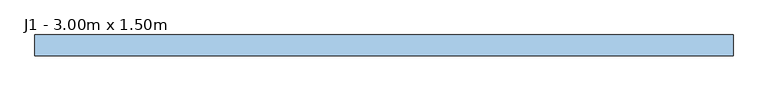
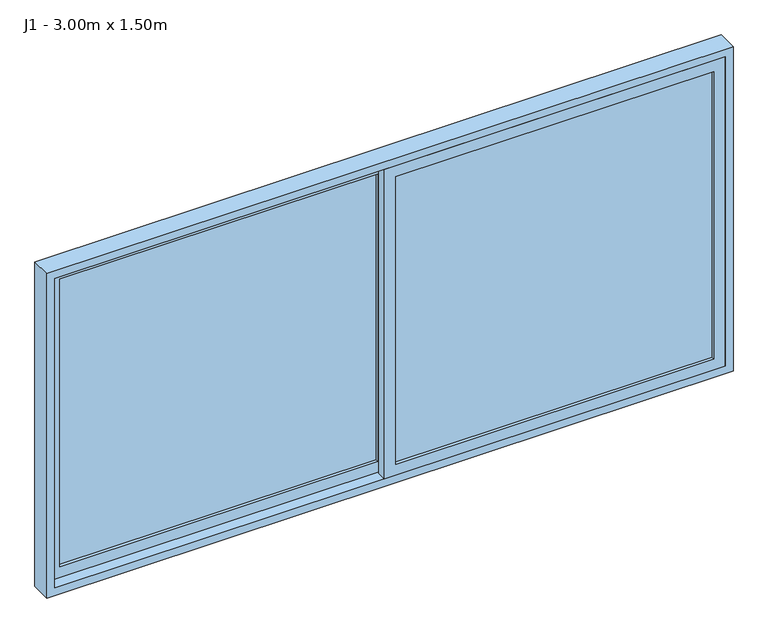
"""IFC4 building model written with IfcOpenShell, lengths in millimetres: window geometry, Janela de correr - 2 Painéis : J1 - 3.00m x 1.50m."""

from ifc_helpers import new_model, si_unit, frame, origin, place, context, project, spatial, polyline, outline, extrude, source, transform, mapped, element, save


def j1_3_00m_x_1_50m_28497eee(model_context):
    return source(origin(), model_context, "Body", "SweptSolid", [
        extrude(outline(polyline([(2115.0, -25.0), (685.0, -25.0), (685.0, 1465.0), (2115.0, 1465.0), (2115.0, -25.0)]), holes=[polyline([(735.0, 25.0), (2065.0, 25.0), (2065.0, 1415.0), (735.0, 1415.0), (735.0, 25.0)])]), frame((0.0, -15.0, 0.0), z_axis=(0.0, 1.0, 0.0), x_axis=(0.0, 0.0, 1.0)), (0.0, 0.0, 1.0), 40.0),
        extrude(outline(polyline([(685.0, 25.0), (2115.0, 25.0), (2115.0, -1465.0), (685.0, -1465.0), (685.0, 25.0)]), holes=[polyline([(2065.0, -25.0), (735.0, -25.0), (735.0, -1415.0), (2065.0, -1415.0), (2065.0, -25.0)])]), frame((0.0, 35.0, 0.0), z_axis=(0.0, 1.0, 0.0), x_axis=(0.0, 0.0, 1.0)), (0.0, 0.0, 1.0), 40.0),
        extrude(outline(polyline([(650.0, 1500.0), (2150.0, 1500.0), (2150.0, -1500.0), (650.0, -1500.0), (650.0, 1500.0)]), holes=[polyline([(2115.0, 1465.0), (685.0, 1465.0), (685.0, -1465.0), (2115.0, -1465.0), (2115.0, 1465.0)])]), frame((0.0, -15.0, 0.0), z_axis=(0.0, 1.0, 0.0), x_axis=(0.0, 0.0, 1.0)), (0.0, 0.0, 1.0), 90.0),
        extrude(outline(polyline([(25.0, -2.0), (25.0, 12.0), (1415.0, 12.0), (1415.0, -2.0), (25.0, -2.0)])), frame((0.0, 0.0, 735.0), z_axis=(0.0, 0.0, 1.0), x_axis=(1.0, 0.0, 0.0)), (0.0, 0.0, 1.0), 1330.0),
        extrude(outline(polyline([(-1415.0, 48.0), (-1415.0, 62.0), (-25.0, 62.0), (-25.0, 48.0), (-1415.0, 48.0)])), frame((0.0, 0.0, 735.0), z_axis=(0.0, 0.0, 1.0), x_axis=(1.0, 0.0, 0.0)), (0.0, 0.0, 1.0), 1330.0),
    ])


if __name__ == "__main__":
    model = new_model("IFC4")
    model_context = context("Model", 3, world=origin())
    ifc_project = project(units=[si_unit("LENGTHUNIT", "METRE", prefix="MILLI")], contexts=[model_context])
    site = spatial("IfcSite", under=ifc_project)
    building = spatial("IfcBuilding", under=site)
    placement = place(None, origin())
    j1_3_00m_x_1_50m_shape = j1_3_00m_x_1_50m_28497eee(model_context)
    element("IfcWindow", 1, ObjectType="Janela de correr - 2 Painéis : J1 - 3.00m x 1.50m", at=placement, inside=building, context=model_context, shape_type="MappedRepresentation", body=[
        mapped(j1_3_00m_x_1_50m_shape, transform((0.0, 0.0, 0.0), x_axis=(1.0, 0.0, 0.0), y_axis=(0.0, 1.0, 0.0), z_axis=(0.0, 0.0, 1.0))),
    ])
    save(model, "model.ifc")
